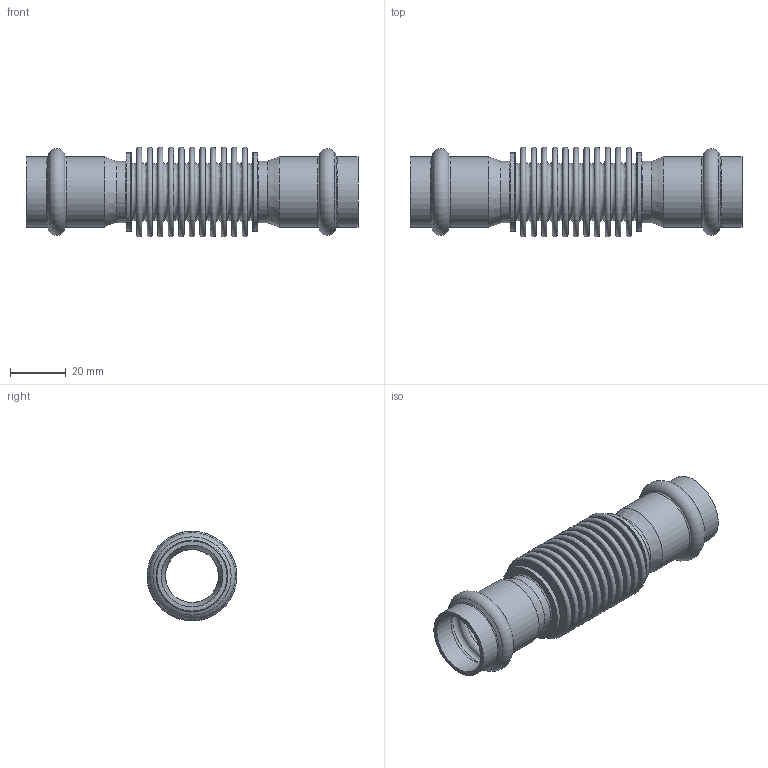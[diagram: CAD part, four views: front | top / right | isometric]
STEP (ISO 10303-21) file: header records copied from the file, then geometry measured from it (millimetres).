
FILE_DESCRIPTION((''),'2;1');
FILE_NAME('G:\Nirosan-Schmiedefeld\Technics\CAD\001 Serie 9.000\022\69872L22H(0).stp','2018-09-11T15:33:51',('herberg'),(''),'Autodesk Inventor 2009','Autodesk Inventor 2009','');
FILE_SCHEMA(('AUTOMOTIVE_DESIGN { 1 0 10303 214 1 1 1 1 }'));
Length unit declared in the file: millimetre
Products named in the file (3): 69872L22H(0); 69HMB22p(0); 69488L22H(0)
Assembly tree (3 placements, depth 2):
  69872L22H(0)
    69HMB22p(0)  x2
    69488L22H(0)
Bounding box: 119 x 32.19 x 32.19 mm (x, y, z)
Volume: 13118 mm3; surface area: 40458.4 mm2
Topology: 3 solids, 3 shells, 140 faces, 232 edges, 146 vertices
Faces by surface type: plane 54, bspline 36, torus 26, cylinder 16, cone 8
Full cylindrical faces by diameter (mm): 19 x2, 22 x2, 22.15 x4, 25.15 x4, 28 x4
Entity records: 4533 total; most frequent: CARTESIAN_POINT 2544, DIRECTION 424, ORIENTED_EDGE 236, EDGE_LOOP 236, AXIS2_PLACEMENT_3D 212, VERTEX_POINT 118, CIRCLE 118, EDGE_CURVE 118
